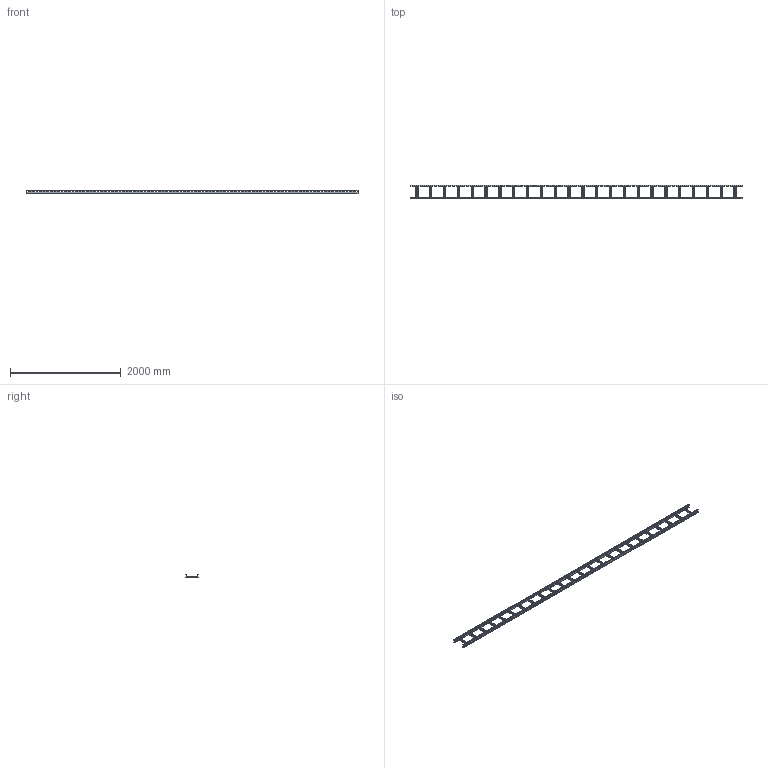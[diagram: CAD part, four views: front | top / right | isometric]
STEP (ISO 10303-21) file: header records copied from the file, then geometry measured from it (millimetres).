
FILE_DESCRIPTION(/* description */ ('','CAx-IF Rec.Pracs.---Representation and Presentation of Product Manufacturing Information (PMI)---4.0---2014-10-13'),/* implementation_level */ '2;1');
FILE_NAME(/* name */ 'Eurostrut_ECL60-200_CableLadder-3DView-{3D}.step',/* time_stamp */ '2026-09-03T08:22:11+02:00',/* author */ (''),/* organization */ (''),/* preprocessor_version */ 'ST-DEVELOPER v20.1',/* originating_system */ 'Autodesk Revit 2027 27.2.0.39',/* authorisation */ '');
FILE_SCHEMA (('AP242_MANAGED_MODEL_BASED_3D_ENGINEERING_MIM_LF { 1 0 10303 442 2 1 4 }'));
Length unit declared in the file: millimetre
Products named in the file (4): TopLevelAssembly; 60mm; 60mm_1; Cable Ladder Rung_Slotted
Assembly tree (26 placements, depth 2):
  TopLevelAssembly
    60mm
    60mm_1
    Cable Ladder Rung_Slotted  x24
Bounding box: 6000 x 246 x 60 mm (x, y, z)
Volume: 2815159.3 mm3; surface area: 3825591.5 mm2
Topology: 26 solids, 26 shells, 2412 faces, 7080 edges, 4720 vertices
Faces by surface type: plane 1812, bspline 480, cylinder 120
Entity records: 37360 total; most frequent: CARTESIAN_POINT 7080, ORIENTED_EDGE 6432, DIRECTION 5488, EDGE_CURVE 3216, LINE 3120, VECTOR 3120, VERTEX_POINT 2144, EDGE_LOOP 1578
